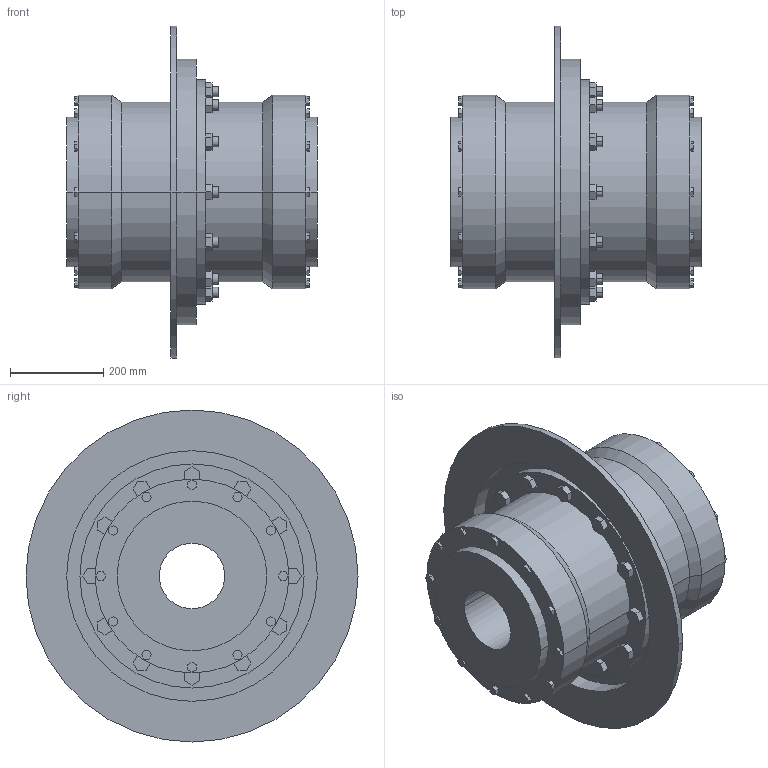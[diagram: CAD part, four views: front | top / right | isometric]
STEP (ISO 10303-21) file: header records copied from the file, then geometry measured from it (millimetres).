
FILE_DESCRIPTION((''),'2;1');
FILE_NAME('A19101900-0_ASM','2018-11-08T',('AB_Roschiwal'),('RENK AG'),'PRO/ENGINEER BY PARAMETRIC TECHNOLOGY CORPORATION, 2015440','PRO/ENGINEER BY PARAMETRIC TECHNOLOGY CORPORATION, 2015440','');
FILE_SCHEMA(('CONFIG_CONTROL_DESIGN'));
Length unit declared in the file: millimetre
Products named in the file (4): SBKD200_GEHAEUSE; SBKD200_NABE; SBKD200_BREMSSCHEIBE; A19101900-0_ASM
Assembly tree (4 placements, depth 2):
  A19101900-0_ASM
    SBKD200_GEHAEUSE
    SBKD200_NABE  x2
    SBKD200_BREMSSCHEIBE
Bounding box: 536 x 711 x 711 mm (x, y, z)
Volume: 56953391 mm3; surface area: 3426738 mm2
Topology: 4 solids, 4 shells, 470 faces, 1156 edges, 768 vertices
Faces by surface type: plane 370, cylinder 96, cone 4
Entity records: 13604 total; most frequent: CARTESIAN_POINT 2350, ORIENTED_EDGE 2264, DIRECTION 2240, EDGE_CURVE 1132, VECTOR 956, LINE 956, VERTEX_POINT 752, AXIS2_PLACEMENT_3D 642
